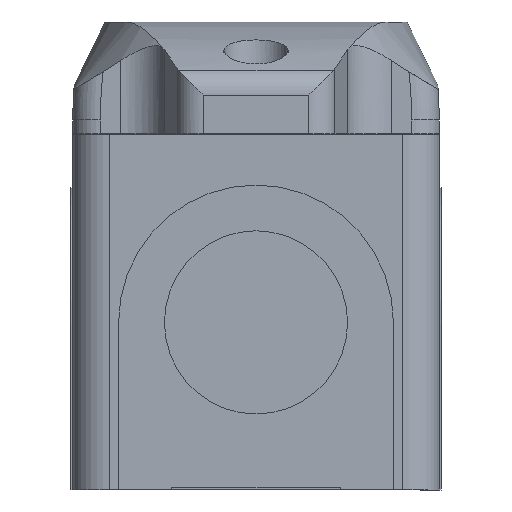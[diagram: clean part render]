
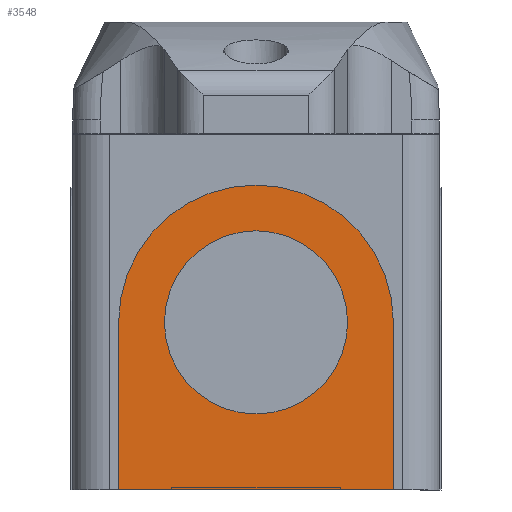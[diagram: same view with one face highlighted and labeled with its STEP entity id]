
A CAD part, front view. The second image highlights one B-rep face of the part: STEP entity #3548.
In plain terms, the highlighted planar face has unit normal (0, -1, 0) as drawn and (-1, 0, 0) by its records, which use the part's own axes.
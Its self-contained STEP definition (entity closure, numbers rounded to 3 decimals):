
#196 = VECTOR ( 'NONE', #12616, 1000. ) ;
#445 = VECTOR ( 'NONE', #506, 1000. ) ;
#463 = VERTEX_POINT ( 'NONE', #10150 ) ;
#506 = DIRECTION ( 'NONE',  ( 0., 1., 0. ) ) ;
#514 = EDGE_LOOP ( 'NONE', ( #6364, #2065 ) ) ;
#930 = CARTESIAN_POINT ( 'NONE',  ( -149.6, 15., 20.3 ) ) ;
#1226 = EDGE_CURVE ( 'NONE', #6329, #10235, #7921, .T. ) ;
#1338 = ORIENTED_EDGE ( 'NONE', *, *, #3694, .T. ) ;
#1522 = EDGE_CURVE ( 'NONE', #463, #1949, #2071, .T. ) ;
#1727 = CARTESIAN_POINT ( 'NONE',  ( -149.6, -10., 2. ) ) ;
#1776 = LINE ( 'NONE', #3759, #445 ) ;
#1949 = VERTEX_POINT ( 'NONE', #7636 ) ;
#2065 = ORIENTED_EDGE ( 'NONE', *, *, #8478, .F. ) ;
#2071 = CIRCLE ( 'NONE', #11001, 15. ) ;
#2167 = AXIS2_PLACEMENT_3D ( 'NONE', #9264, #7141, #6051 ) ;
#2216 = ORIENTED_EDGE ( 'NONE', *, *, #1522, .T. ) ;
#2478 = VERTEX_POINT ( 'NONE', #10634 ) ;
#2552 = CARTESIAN_POINT ( 'NONE',  ( -149.6, 0., 2. ) ) ;
#3252 = VECTOR ( 'NONE', #8518, 1000. ) ;
#3371 = DIRECTION ( 'NONE',  ( 0., -1., 0. ) ) ;
#3548 = ADVANCED_FACE ( 'NONE', ( #7011, #5105 ), #9122, .T. ) ;
#3636 = CARTESIAN_POINT ( 'NONE',  ( -149.6, 0., 2. ) ) ;
#3694 = EDGE_CURVE ( 'NONE', #6965, #463, #6334, .T. ) ;
#3759 = CARTESIAN_POINT ( 'NONE',  ( -149.6, -15., 20.3 ) ) ;
#4367 = CARTESIAN_POINT ( 'NONE',  ( -149.6, 15., 20.3 ) ) ;
#5105 = FACE_BOUND ( 'NONE', #514, .T. ) ;
#5122 = EDGE_CURVE ( 'NONE', #1949, #2478, #7028, .T. ) ;
#5551 = ORIENTED_EDGE ( 'NONE', *, *, #6637, .T. ) ;
#5568 = DIRECTION ( 'NONE',  ( 0., -1., 0. ) ) ;
#5631 = CARTESIAN_POINT ( 'NONE',  ( -149.6, 0., 2. ) ) ;
#6051 = DIRECTION ( 'NONE',  ( 0., -1., 0. ) ) ;
#6329 = VERTEX_POINT ( 'NONE', #1727 ) ;
#6334 = LINE ( 'NONE', #4367, #3252 ) ;
#6364 = ORIENTED_EDGE ( 'NONE', *, *, #1226, .F. ) ;
#6637 = EDGE_CURVE ( 'NONE', #2478, #6965, #1776, .T. ) ;
#6965 = VERTEX_POINT ( 'NONE', #930 ) ;
#7011 = FACE_OUTER_BOUND ( 'NONE', #8532, .T. ) ;
#7028 = LINE ( 'NONE', #11456, #196 ) ;
#7062 = CARTESIAN_POINT ( 'NONE',  ( -149.6, 10., 2. ) ) ;
#7141 = DIRECTION ( 'NONE',  ( -1., 0., 0. ) ) ;
#7636 = CARTESIAN_POINT ( 'NONE',  ( -149.6, -15., 2. ) ) ;
#7854 = DIRECTION ( 'NONE',  ( -1., 0., 0. ) ) ;
#7921 = CIRCLE ( 'NONE', #9896, 10. ) ;
#8131 = CIRCLE ( 'NONE', #9226, 10. ) ;
#8478 = EDGE_CURVE ( 'NONE', #10235, #6329, #8131, .T. ) ;
#8518 = DIRECTION ( 'NONE',  ( 0., 0., -1. ) ) ;
#8532 = EDGE_LOOP ( 'NONE', ( #5551, #1338, #2216, #11442 ) ) ;
#9122 = PLANE ( 'NONE',  #2167 ) ;
#9226 = AXIS2_PLACEMENT_3D ( 'NONE', #2552, #11757, #3371 ) ;
#9264 = CARTESIAN_POINT ( 'NONE',  ( -149.6, 0., 2. ) ) ;
#9896 = AXIS2_PLACEMENT_3D ( 'NONE', #5631, #12937, #5568 ) ;
#10150 = CARTESIAN_POINT ( 'NONE',  ( -149.6, 15., 2. ) ) ;
#10235 = VERTEX_POINT ( 'NONE', #7062 ) ;
#10634 = CARTESIAN_POINT ( 'NONE',  ( -149.6, -15., 20.3 ) ) ;
#11001 = AXIS2_PLACEMENT_3D ( 'NONE', #3636, #7854, #12846 ) ;
#11442 = ORIENTED_EDGE ( 'NONE', *, *, #5122, .T. ) ;
#11456 = CARTESIAN_POINT ( 'NONE',  ( -149.6, -15., 2. ) ) ;
#11757 = DIRECTION ( 'NONE',  ( -1., 0., 0. ) ) ;
#12616 = DIRECTION ( 'NONE',  ( 0., 0., 1. ) ) ;
#12846 = DIRECTION ( 'NONE',  ( 0., -1., 0. ) ) ;
#12937 = DIRECTION ( 'NONE',  ( -1., 0., 0. ) ) ;
